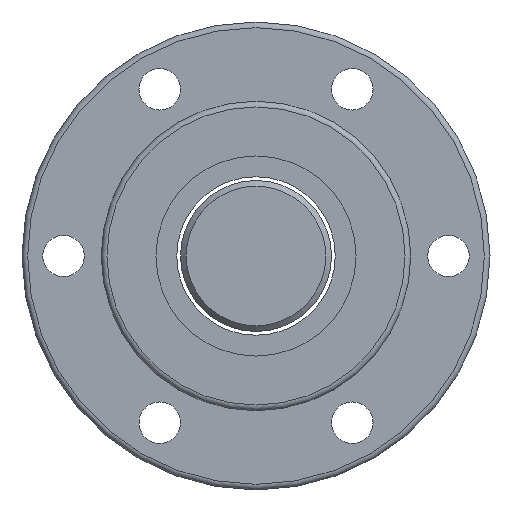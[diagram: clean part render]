
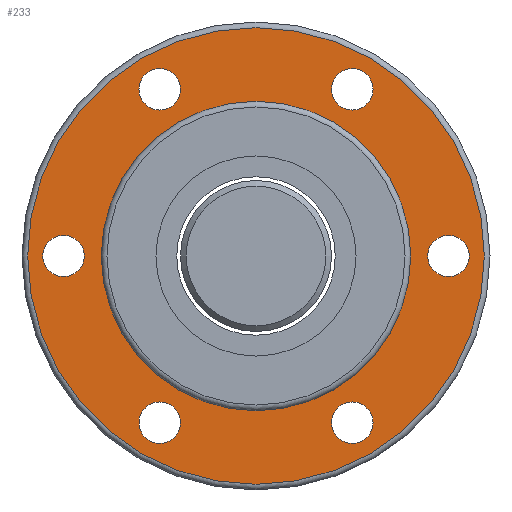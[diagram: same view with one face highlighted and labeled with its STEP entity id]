
A CAD part, left-side view. The second image highlights one B-rep face of the part: STEP entity #233.
In plain terms, the highlighted planar face has unit normal (-1, 0, 0).
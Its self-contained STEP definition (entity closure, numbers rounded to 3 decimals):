
#170=FACE_BOUND('',#341,.T.);
#171=FACE_BOUND('',#342,.T.);
#172=FACE_BOUND('',#343,.T.);
#173=FACE_BOUND('',#344,.T.);
#174=FACE_BOUND('',#345,.T.);
#175=FACE_BOUND('',#346,.T.);
#176=FACE_BOUND('',#348,.T.);
#233=ADVANCED_FACE('',(#170,#171,#172,#173,#174,#175,#282,#176),#263,.F.);
#263=PLANE('',#694);
#282=FACE_OUTER_BOUND('',#347,.T.);
#341=EDGE_LOOP('',(#439));
#342=EDGE_LOOP('',(#440));
#343=EDGE_LOOP('',(#441));
#344=EDGE_LOOP('',(#442));
#345=EDGE_LOOP('',(#443));
#346=EDGE_LOOP('',(#444));
#347=EDGE_LOOP('',(#445));
#348=EDGE_LOOP('',(#446));
#439=ORIENTED_EDGE('',*,*,#564,.T.);
#440=ORIENTED_EDGE('',*,*,#565,.T.);
#441=ORIENTED_EDGE('',*,*,#566,.T.);
#442=ORIENTED_EDGE('',*,*,#567,.T.);
#443=ORIENTED_EDGE('',*,*,#568,.T.);
#444=ORIENTED_EDGE('',*,*,#569,.T.);
#445=ORIENTED_EDGE('',*,*,#563,.F.);
#446=ORIENTED_EDGE('',*,*,#570,.T.);
#514=VERTEX_POINT('',#997);
#515=VERTEX_POINT('',#1000);
#516=VERTEX_POINT('',#1002);
#517=VERTEX_POINT('',#1004);
#518=VERTEX_POINT('',#1006);
#519=VERTEX_POINT('',#1008);
#520=VERTEX_POINT('',#1010);
#521=VERTEX_POINT('',#1012);
#563=EDGE_CURVE('',#514,#514,#612,.T.);
#564=EDGE_CURVE('',#515,#515,#613,.T.);
#565=EDGE_CURVE('',#516,#516,#614,.T.);
#566=EDGE_CURVE('',#517,#517,#615,.T.);
#567=EDGE_CURVE('',#518,#518,#616,.T.);
#568=EDGE_CURVE('',#519,#519,#617,.T.);
#569=EDGE_CURVE('',#520,#520,#618,.T.);
#570=EDGE_CURVE('',#521,#521,#619,.T.);
#612=CIRCLE('',#685,60.5);
#613=CIRCLE('',#687,5.5);
#614=CIRCLE('',#688,5.5);
#615=CIRCLE('',#689,5.5);
#616=CIRCLE('',#690,5.5);
#617=CIRCLE('',#691,5.5);
#618=CIRCLE('',#692,5.5);
#619=CIRCLE('',#693,41.);
#685=AXIS2_PLACEMENT_3D('',#996,#832,#833);
#687=AXIS2_PLACEMENT_3D('',#999,#836,#837);
#688=AXIS2_PLACEMENT_3D('',#1001,#838,#839);
#689=AXIS2_PLACEMENT_3D('',#1003,#840,#841);
#690=AXIS2_PLACEMENT_3D('',#1005,#842,#843);
#691=AXIS2_PLACEMENT_3D('',#1007,#844,#845);
#692=AXIS2_PLACEMENT_3D('',#1009,#846,#847);
#693=AXIS2_PLACEMENT_3D('',#1011,#848,#849);
#694=AXIS2_PLACEMENT_3D('',#1013,#850,#851);
#832=DIRECTION('',(1.,0.,0.));
#833=DIRECTION('',(0.,1.,0.));
#836=DIRECTION('',(1.,0.,0.));
#837=DIRECTION('',(0.,1.,0.));
#838=DIRECTION('',(1.,0.,0.));
#839=DIRECTION('',(0.,1.,0.));
#840=DIRECTION('',(1.,0.,0.));
#841=DIRECTION('',(0.,1.,0.));
#842=DIRECTION('',(1.,0.,0.));
#843=DIRECTION('',(0.,1.,0.));
#844=DIRECTION('',(1.,0.,0.));
#845=DIRECTION('',(0.,1.,0.));
#846=DIRECTION('',(1.,0.,0.));
#847=DIRECTION('',(0.,1.,0.));
#848=DIRECTION('',(1.,0.,0.));
#849=DIRECTION('',(0.,1.,0.));
#850=DIRECTION('',(1.,0.,0.));
#851=DIRECTION('',(0.,1.,0.));
#996=CARTESIAN_POINT('',(-33.,0.,0.));
#997=CARTESIAN_POINT('',(-33.,60.5,0.));
#999=CARTESIAN_POINT('',(-33.,25.5,-44.167));
#1000=CARTESIAN_POINT('',(-33.,31.,-44.167));
#1001=CARTESIAN_POINT('',(-33.,-25.5,-44.167));
#1002=CARTESIAN_POINT('',(-33.,-20.,-44.167));
#1003=CARTESIAN_POINT('',(-33.,-51.,0.));
#1004=CARTESIAN_POINT('',(-33.,-45.5,0.));
#1005=CARTESIAN_POINT('',(-33.,-25.5,44.167));
#1006=CARTESIAN_POINT('',(-33.,-20.,44.167));
#1007=CARTESIAN_POINT('',(-33.,25.5,44.167));
#1008=CARTESIAN_POINT('',(-33.,31.,44.167));
#1009=CARTESIAN_POINT('',(-33.,51.,0.));
#1010=CARTESIAN_POINT('',(-33.,56.5,0.));
#1011=CARTESIAN_POINT('',(-33.,0.,0.));
#1012=CARTESIAN_POINT('',(-33.,41.,0.));
#1013=CARTESIAN_POINT('',(-33.,50.75,0.));
